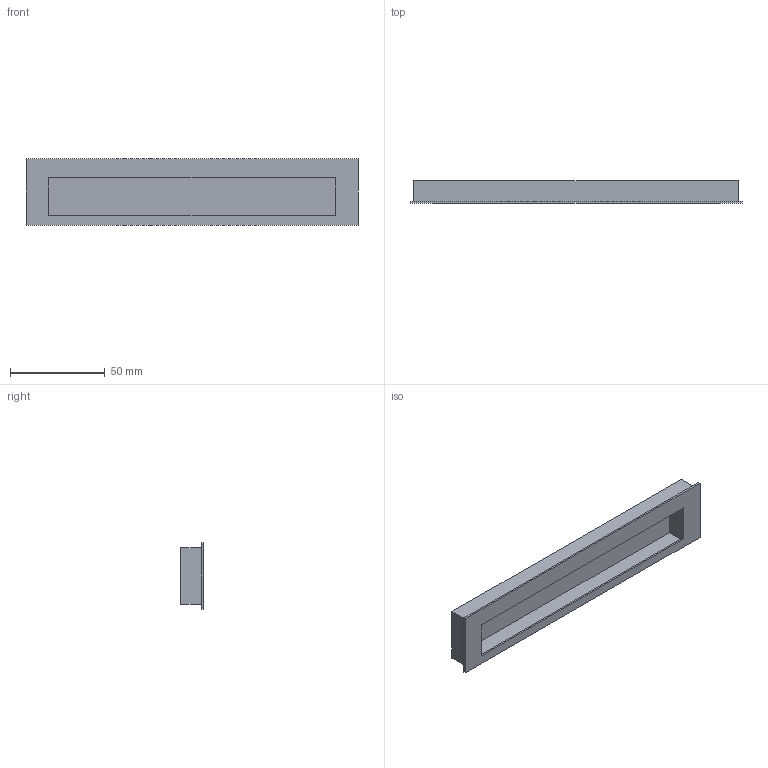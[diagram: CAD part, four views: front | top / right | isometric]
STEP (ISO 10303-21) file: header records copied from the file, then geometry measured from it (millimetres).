
FILE_DESCRIPTION( ( '' ), '1' );
FILE_NAME( 'C:/Documents and Settings/Sachin/Desktop/Sheet 10_1/stp/ 9071073.stp', '2013-10-22T05:55:56', ( '' ), ( '' ), ' ', ' ', ' ' );
FILE_SCHEMA( ( 'CONFIG_CONTROL_DESIGN' ) );
Length unit declared in the file: millimetre
Products named in the file (1): 1
Bounding box: 175 x 12 x 35 mm (x, y, z)
Volume: 17053.9 mm3; surface area: 23631.1 mm2
Topology: 1 solids, 1 shells, 26 faces, 60 edges, 40 vertices
Faces by surface type: plane 22, cylinder 4
Entity records: 776 total; most frequent: CARTESIAN_POINT 127, DIRECTION 122, ORIENTED_EDGE 120, EDGE_CURVE 60, LINE 52, VECTOR 52, VERTEX_POINT 40, AXIS2_PLACEMENT_3D 35
